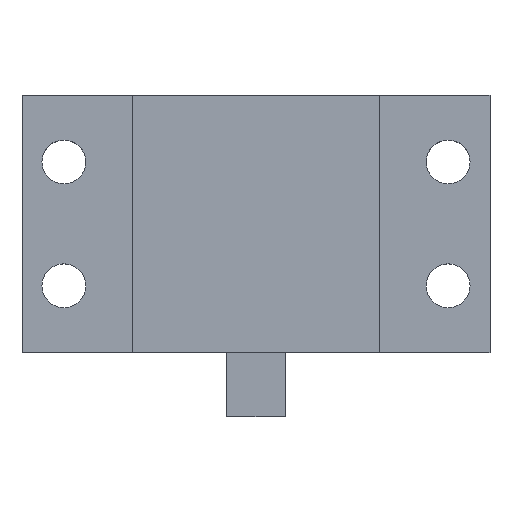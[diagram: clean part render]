
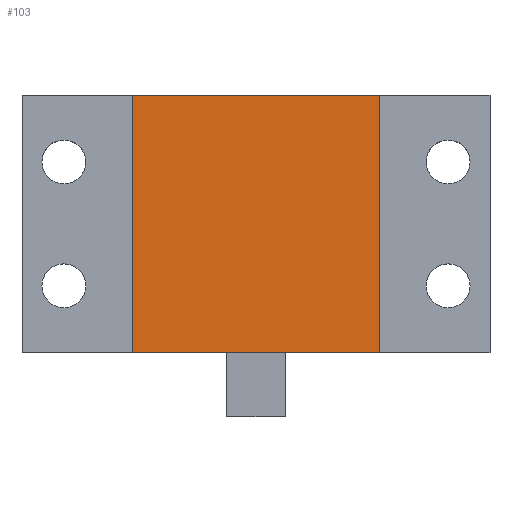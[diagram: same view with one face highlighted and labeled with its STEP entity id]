
A CAD part, top view. The second image highlights one B-rep face of the part: STEP entity #103.
In plain terms, the highlighted planar face has unit normal (0, 0, 1).
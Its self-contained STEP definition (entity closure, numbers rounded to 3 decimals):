
#103=ADVANCED_FACE('',(#266),#268,.T.);
#266=FACE_BOUND('',#267,.T.);
#267=EDGE_LOOP('',(#416,#417,#418,#419));
#268=PLANE('',#269);
#269=AXIS2_PLACEMENT_3D('',#270,#271,#272);
#270=CARTESIAN_POINT('',(0.,0.,11.2));
#271=DIRECTION('',(0.,0.,1.));
#272=DIRECTION('',(-1.,0.,0.));
#416=ORIENTED_EDGE('',*,*,#476,.T.);
#417=ORIENTED_EDGE('',*,*,#496,.T.);
#418=ORIENTED_EDGE('',*,*,#497,.T.);
#419=ORIENTED_EDGE('',*,*,#498,.T.);
#476=EDGE_CURVE('',#520,#521,#522,.T.);
#496=EDGE_CURVE('',#521,#556,#557,.T.);
#497=EDGE_CURVE('',#556,#558,#559,.T.);
#498=EDGE_CURVE('',#558,#520,#560,.T.);
#520=VERTEX_POINT('',#596);
#521=VERTEX_POINT('',#597);
#522=LINE('',#598,#599);
#556=VERTEX_POINT('',#672);
#557=LINE('',#673,#674);
#558=VERTEX_POINT('',#676);
#559=LINE('',#677,#678);
#560=LINE('',#680,#681);
#596=CARTESIAN_POINT('',(-12.7,-13.2,11.2));
#597=CARTESIAN_POINT('',(12.7,-13.2,11.2));
#598=CARTESIAN_POINT('',(-12.7,-13.2,11.2));
#599=VECTOR('',#600,1.);
#600=DIRECTION('',(1.,0.,0.));
#672=CARTESIAN_POINT('',(12.7,13.2,11.2));
#673=CARTESIAN_POINT('',(12.7,-13.2,11.2));
#674=VECTOR('',#675,1.);
#675=DIRECTION('',(0.,1.,0.));
#676=CARTESIAN_POINT('',(-12.7,13.2,11.2));
#677=CARTESIAN_POINT('',(12.7,13.2,11.2));
#678=VECTOR('',#679,1.);
#679=DIRECTION('',(-1.,0.,0.));
#680=CARTESIAN_POINT('',(-12.7,13.2,11.2));
#681=VECTOR('',#682,1.);
#682=DIRECTION('',(0.,-1.,0.));
